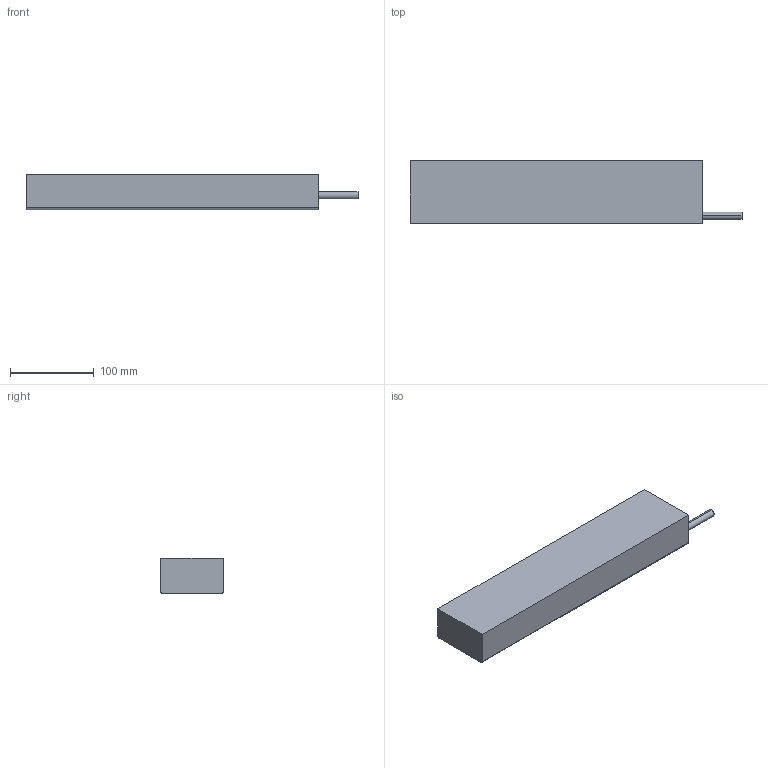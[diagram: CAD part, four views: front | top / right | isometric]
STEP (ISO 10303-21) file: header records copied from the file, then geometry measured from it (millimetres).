
FILE_DESCRIPTION (( 'STEP AP214' ), '1' );
FILE_NAME ('FLS-75-350¶¯×Ó.STEP', '2021-08-19T03:27:07', ( '' ), ( '' ), 'SwSTEP 2.0', 'SolidWorks 2016', '' );
FILE_SCHEMA (( 'AUTOMOTIVE_DESIGN' ));
Length unit declared in the file: millimetre
Products named in the file (1): FLS-75-350雄赽
Bounding box: 397.5 x 75 x 42 mm (x, y, z)
Volume: 1100352.1 mm3; surface area: 92944.1 mm2
Topology: 1 solids, 1 shells, 115 faces, 284 edges, 146 vertices
Faces by surface type: cylinder 56, cone 52, plane 7
Entity records: 3616 total; most frequent: DIRECTION 576, CARTESIAN_POINT 494, ORIENTED_EDGE 464, EDGE_CURVE 232, AXIS2_PLACEMENT_3D 228, VERTEX_POINT 146, EDGE_LOOP 142, LINE 120
